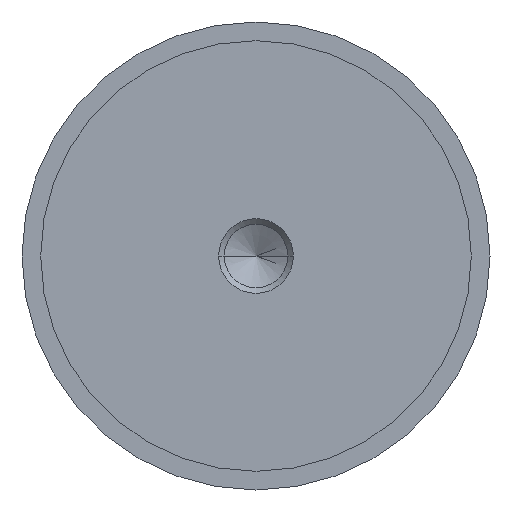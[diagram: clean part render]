
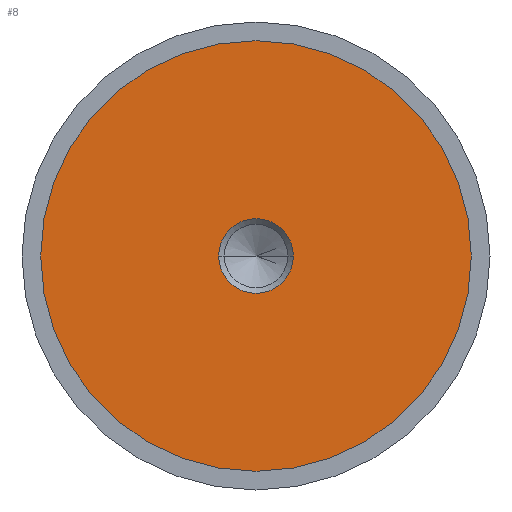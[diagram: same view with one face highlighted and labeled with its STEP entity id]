
A CAD part, left-side view. The second image highlights one B-rep face of the part: STEP entity #8.
In plain terms, the highlighted planar face has unit normal (-1, 0, 0).
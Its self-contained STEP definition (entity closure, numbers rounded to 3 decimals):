
#8 = ADVANCED_FACE ( 'NONE', ( #513, #452 ), #39, .F. ) ;
#14 = EDGE_CURVE ( 'NONE', #520, #457, #447, .T. ) ;
#38 = ORIENTED_EDGE ( 'NONE', *, *, #93, .T. ) ;
#39 = PLANE ( 'NONE',  #753 ) ;
#93 = EDGE_CURVE ( 'NONE', #647, #596, #543, .T. ) ;
#94 = DIRECTION ( 'NONE',  ( 0., 0., -1. ) ) ;
#104 = DIRECTION ( 'NONE',  ( 0., 0., -1. ) ) ;
#178 = EDGE_CURVE ( 'NONE', #457, #520, #330, .T. ) ;
#211 = DIRECTION ( 'NONE',  ( -1., 0., 0. ) ) ;
#214 = ORIENTED_EDGE ( 'NONE', *, *, #178, .T. ) ;
#223 = CARTESIAN_POINT ( 'NONE',  ( -12.49, -5.99, 0. ) ) ;
#242 = DIRECTION ( 'NONE',  ( 0., 0., -1. ) ) ;
#279 = EDGE_LOOP ( 'NONE', ( #617, #38 ) ) ;
#287 = DIRECTION ( 'NONE',  ( 1., 0., 0. ) ) ;
#293 = CARTESIAN_POINT ( 'NONE',  ( -12.49, 0., 0. ) ) ;
#299 = AXIS2_PLACEMENT_3D ( 'NONE', #608, #664, #242 ) ;
#319 = CARTESIAN_POINT ( 'NONE',  ( -12.49, 0., -34.5 ) ) ;
#323 = CARTESIAN_POINT ( 'NONE',  ( -12.49, 0., 34.5 ) ) ;
#330 = CIRCLE ( 'NONE', #338, 34.5 ) ;
#335 = DIRECTION ( 'NONE',  ( 1., 0., 0. ) ) ;
#338 = AXIS2_PLACEMENT_3D ( 'NONE', #293, #589, #472 ) ;
#361 = EDGE_LOOP ( 'NONE', ( #510, #214 ) ) ;
#447 = CIRCLE ( 'NONE', #728, 34.5 ) ;
#452 = FACE_OUTER_BOUND ( 'NONE', #361, .T. ) ;
#457 = VERTEX_POINT ( 'NONE', #319 ) ;
#472 = DIRECTION ( 'NONE',  ( 0., 0., 1. ) ) ;
#510 = ORIENTED_EDGE ( 'NONE', *, *, #14, .T. ) ;
#513 = FACE_BOUND ( 'NONE', #279, .T. ) ;
#520 = VERTEX_POINT ( 'NONE', #323 ) ;
#543 = CIRCLE ( 'NONE', #299, 5.99 ) ;
#589 = DIRECTION ( 'NONE',  ( -1., 0., 0. ) ) ;
#596 = VERTEX_POINT ( 'NONE', #223 ) ;
#607 = EDGE_CURVE ( 'NONE', #596, #647, #743, .T. ) ;
#608 = CARTESIAN_POINT ( 'NONE',  ( -12.49, 0., 0. ) ) ;
#617 = ORIENTED_EDGE ( 'NONE', *, *, #607, .T. ) ;
#647 = VERTEX_POINT ( 'NONE', #701 ) ;
#650 = CARTESIAN_POINT ( 'NONE',  ( -12.49, 0., 0. ) ) ;
#664 = DIRECTION ( 'NONE',  ( 1., 0., 0. ) ) ;
#700 = CARTESIAN_POINT ( 'NONE',  ( -12.49, 34.5, 0. ) ) ;
#701 = CARTESIAN_POINT ( 'NONE',  ( -12.49, 5.99, 0. ) ) ;
#728 = AXIS2_PLACEMENT_3D ( 'NONE', #650, #211, #761 ) ;
#743 = CIRCLE ( 'NONE', #781, 5.99 ) ;
#753 = AXIS2_PLACEMENT_3D ( 'NONE', #700, #335, #104 ) ;
#760 = CARTESIAN_POINT ( 'NONE',  ( -12.49, 0., 0. ) ) ;
#761 = DIRECTION ( 'NONE',  ( 0., 0., 1. ) ) ;
#781 = AXIS2_PLACEMENT_3D ( 'NONE', #760, #287, #94 ) ;
